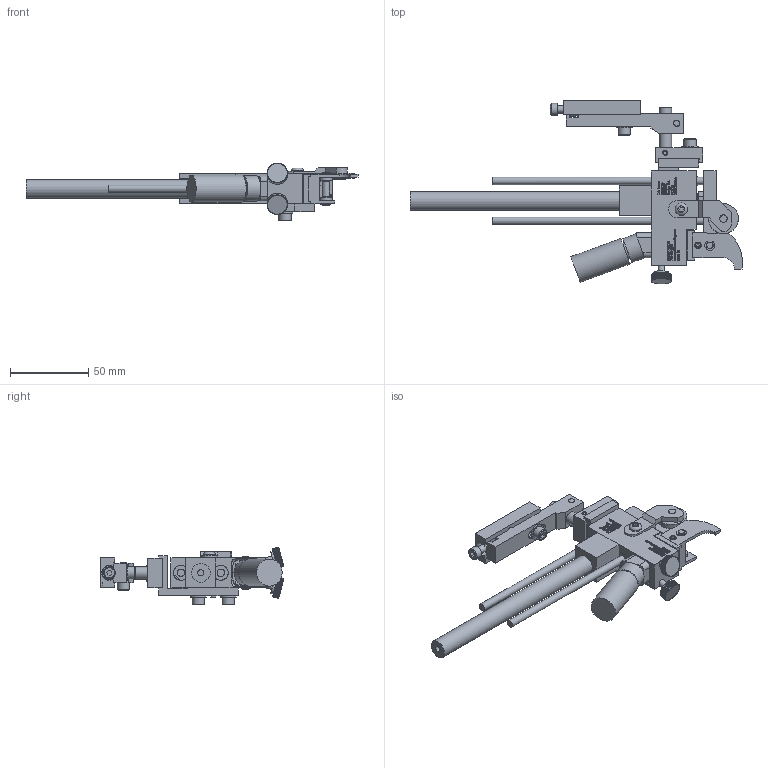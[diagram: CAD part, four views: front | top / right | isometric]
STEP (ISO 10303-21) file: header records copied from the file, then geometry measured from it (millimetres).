
FILE_DESCRIPTION((''),'2;1');
FILE_NAME('C:\Documents and Settings\Ron\My Documents\Inventor\Sprinter Drawing\Machines in Inventor\Model 44\Type\Ext Str\E2\Brkt\Ret\Model 44 E2 type Ret w brkt.stp','2009-01-23T10:51:59',('Ron'),(''),'Autodesk Inventor 2008','Autodesk Inventor 2008','');
FILE_SCHEMA(('AUTOMOTIVE_DESIGN { 1 0 10303 214 1 1 1 1 }'));
Length unit declared in the file: inch
Products named in the file (1): Model 44 E2 type Ret w brkt
Bounding box: 211.8 x 117.12 x 36.82 mm (x, y, z)
Volume: 111595.9 mm3; surface area: 54060.5 mm2
Topology: 31 solids, 31 shells, 6318 faces, 15740 edges, 9749 vertices
Faces by surface type: plane 4466, bspline 1323, cylinder 476, cone 49, torus 4
Full cylindrical faces by diameter (mm): 3.175 x4, 3.302 x1, 3.505 x1, 3.962 x1, 4.064 x7, 4.166 x1, 4.699 x1, 4.75 x4, 4.775 x1, 4.826 x7, 5.156 x5, 5.207 x2, 5.41 x2, 6.096 x1, 6.68 x1, 7.239 x1, 7.353 x1, 7.62 x1, 7.925 x7, 7.938 x1, 8.128 x1, 9.017 x1, 9.525 x2, 10.312 x4, 10.922 x1, 11.036 x1, 11.938 x2, 14.478 x1, 16.256 x1, 17.272 x1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
Entity records: 201627 total; most frequent: CARTESIAN_POINT 54925, ORIENTED_EDGE 31040, DIRECTION 24185, EDGE_CURVE 15520, VECTOR 11631, LINE 11631, VERTEX_POINT 9685, EDGE_LOOP 6879
